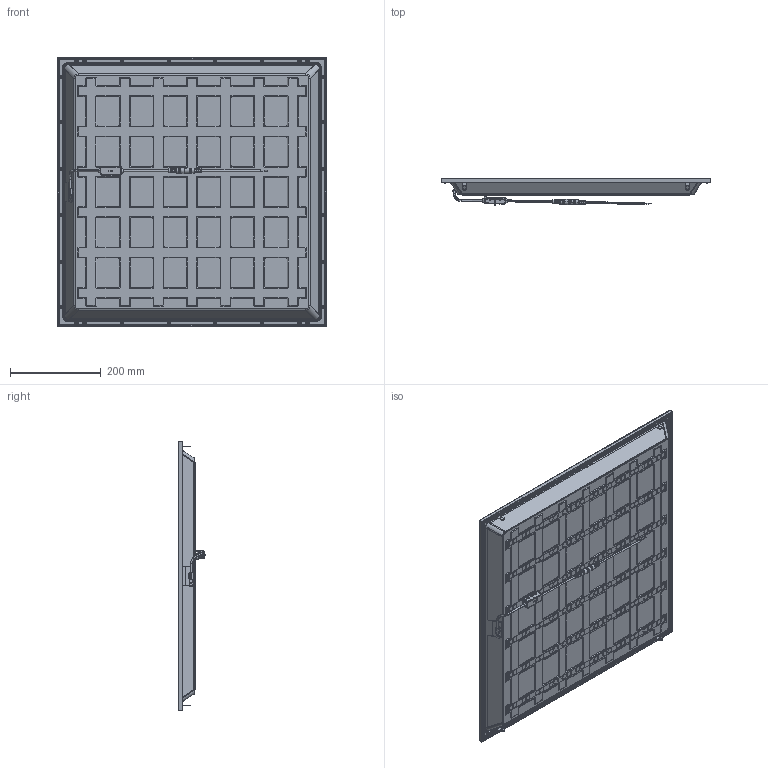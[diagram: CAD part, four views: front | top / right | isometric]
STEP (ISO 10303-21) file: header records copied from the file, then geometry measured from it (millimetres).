
FILE_DESCRIPTION(/* description */ (''),/* implementation_level */ '2;1');
FILE_NAME(/* name */ '929003432806 sh10 20240112.stp',/* time_stamp */ '2024-01-12T17:28:02+08:00',/* author */ (''),/* organization */ (''),/* preprocessor_version */ 'ST-DEVELOPER v19.4',/* originating_system */ 'SIEMENS PLM Software NX2212.8901',/* authorisation */ '');
FILE_SCHEMA (('AUTOMOTIVE_DESIGN { 1 0 10303 214 3 1 1 1 }'));
Products named in the file (1): 929003432806 sh10 20230923_step_objects
Bounding box: 595 x 59.43 x 595 mm (x, y, z)
Volume: 998588.3 mm3; surface area: 3054032.2 mm2
Topology: 54 solids, 54 shells, 4931 faces, 12546 edges, 8082 vertices
Faces by surface type: cylinder 2245, plane 2218, bspline 146, cone 140, torus 126, sphere 56
Entity records: 177033 total; most frequent: CARTESIAN_POINT 63475, ORIENTED_EDGE 25076, DIRECTION 22026, EDGE_CURVE 12538, VERTEX_POINT 8082, AXIS2_PLACEMENT_3D 7844, LINE 6338, VECTOR 6338
